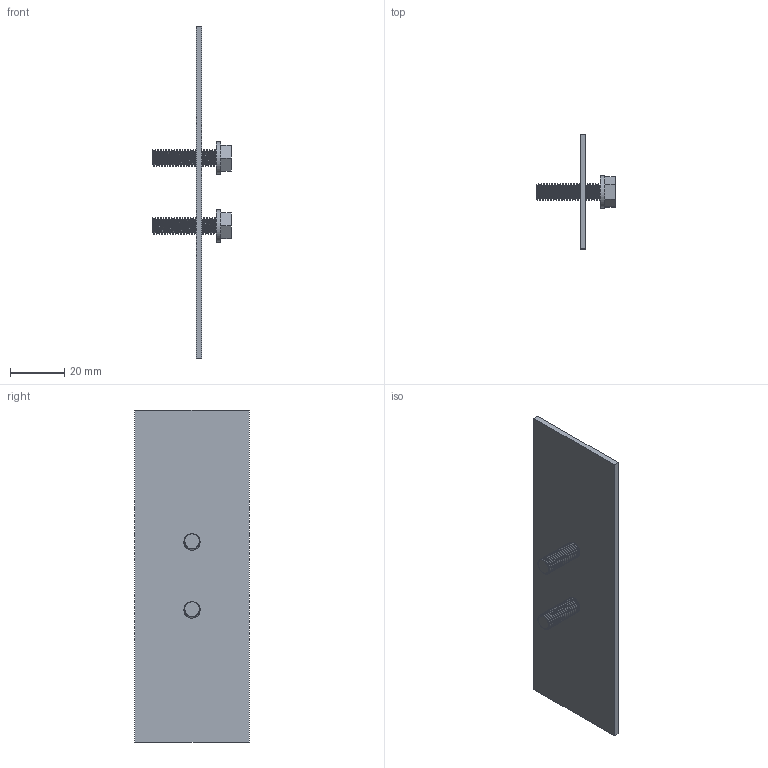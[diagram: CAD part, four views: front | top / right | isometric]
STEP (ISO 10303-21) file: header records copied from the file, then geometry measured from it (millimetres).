
FILE_DESCRIPTION(/* description */ (''),/* implementation_level */ '2;1');
FILE_NAME(/* name */ '35_1000152',/* time_stamp */ '2014-08-07T11:14:50+02:00',/* author */ (''),/* organization */ (''),/* preprocessor_version */ 'ST-DEVELOPER v9',/* originating_system */ 'UGS - NX 4.0',/* authorisation */ '');
FILE_SCHEMA (('CONFIG_CONTROL_DESIGN'));
Length unit declared in the file: millimetre
Products named in the file (1): MTro3787xhrt
Bounding box: 29 x 42 x 122.24 mm (x, y, z)
Volume: 12349.9 mm3; surface area: 13435.6 mm2
Topology: 5 solids, 5 shells, 46 faces, 105 edges, 71 vertices
Faces by surface type: plane 30, cylinder 10, bspline 6
Full cylindrical faces by diameter (mm): 5.188 x2, 6.4 x2, 12 x2
Entity records: 15198 total; most frequent: CARTESIAN_POINT 14147, ORIENTED_EDGE 192, DIRECTION 172, EDGE_CURVE 96, VERTEX_POINT 68, EDGE_LOOP 62, AXIS2_PLACEMENT_3D 59, LINE 54
